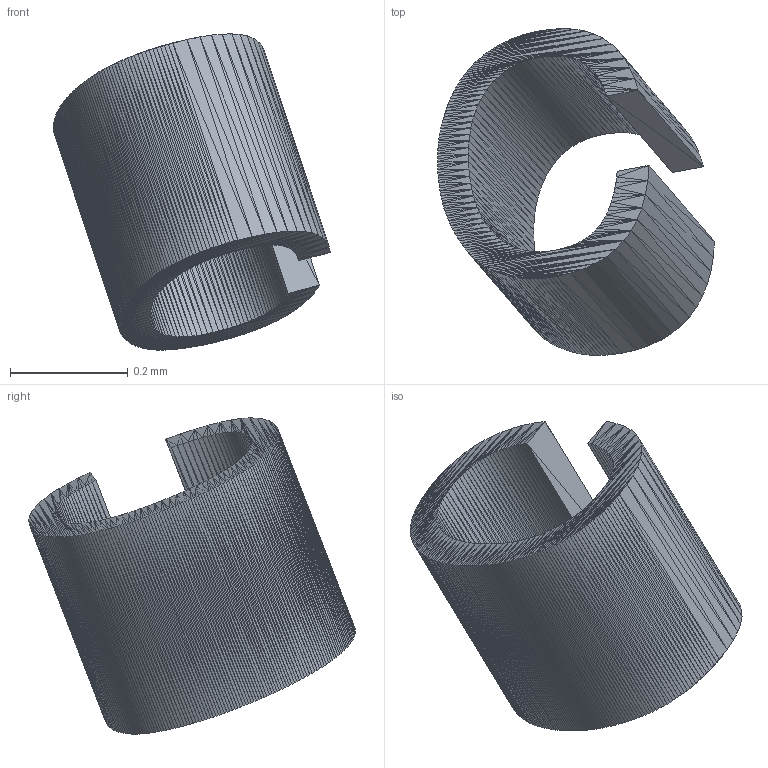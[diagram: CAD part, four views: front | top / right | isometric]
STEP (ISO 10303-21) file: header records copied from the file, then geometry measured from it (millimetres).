
FILE_DESCRIPTION(/* description */ (''),/* implementation_level */ '2;1');
FILE_NAME(/* name */ 'C.stp',/* time_stamp */ '2014-7-20T16:03:56.5514501',/* author */ ('EtsujiNomura'),/* organization */ (''),/* preprocessor_version */ 'InStep v2',/* originating_system */ 'InStep V2.3',/* authorisation */ '');
FILE_SCHEMA (('AUTOMOTIVE_DESIGN { 1 0 10303 214 1 1 1 1 }'));
Length unit declared in the file: millimetre
Products named in the file (1): None
Bounding box: 0.47 x 0.55 x 0.54 mm (x, y, z)
Volume: 0 mm3; surface area: 0.9 mm2
Topology: 1 solids, 1 shells, 964 faces, 1446 edges, 484 vertices
Faces by surface type: plane 964
Entity records: 14868 total; most frequent: ORIENTED_EDGE 2892, DIRECTION 2116, LINE 1446, EDGE_CURVE 1446, VECTOR 1150, AXIS2_PLACEMENT_3D 965, EDGE_LOOP 964, FACE_OUTER_BOUND 964
